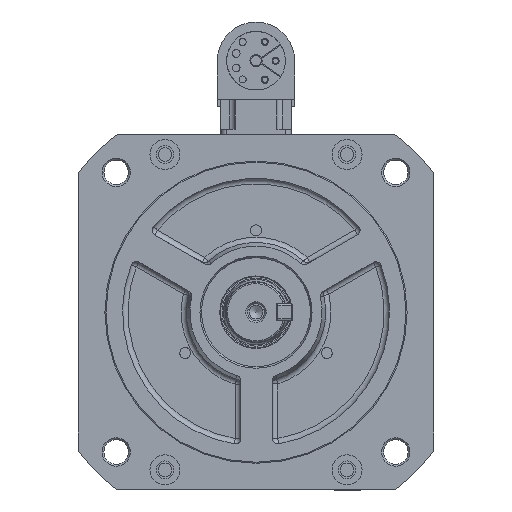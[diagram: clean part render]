
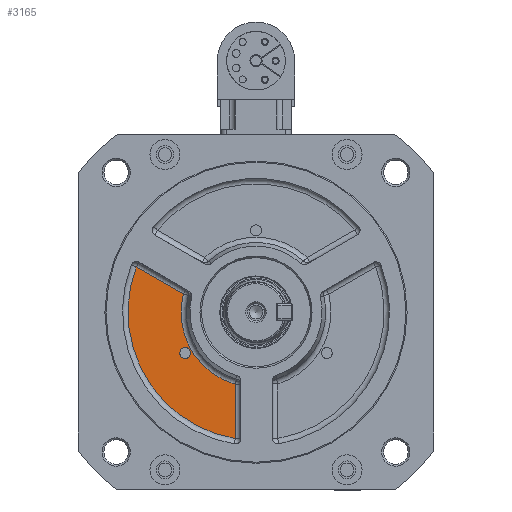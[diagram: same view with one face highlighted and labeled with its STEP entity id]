
A CAD part, left-side view. The second image highlights one B-rep face of the part: STEP entity #3165.
In plain terms, the highlighted planar face has unit normal (-1, 0, 0) as drawn and (0, -1, 0) by its records, which use the part's own axes.
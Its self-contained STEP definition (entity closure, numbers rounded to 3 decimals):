
#3165 = ADVANCED_FACE( '', ( #6979, #6980 ), #6981, .T. );
#6979 = FACE_OUTER_BOUND( '', #11583, .T. );
#6980 = FACE_BOUND( '', #11584, .T. );
#6981 = PLANE( '', #11585 );
#11583 = EDGE_LOOP( '', ( #20693, #20694, #20695, #20696 ) );
#11584 = EDGE_LOOP( '', ( #20697 ) );
#11585 = AXIS2_PLACEMENT_3D( '', #20698, #20699, #20700 );
#20693 = ORIENTED_EDGE( '', *, *, #29550, .T. );
#20694 = ORIENTED_EDGE( '', *, *, #29551, .T. );
#20695 = ORIENTED_EDGE( '', *, *, #29552, .T. );
#20696 = ORIENTED_EDGE( '', *, *, #29136, .T. );
#20697 = ORIENTED_EDGE( '', *, *, #29412, .T. );
#20698 = CARTESIAN_POINT( '', ( 0.069, -28., 0.04 ) );
#20699 = DIRECTION( '', ( 0., -1., 0. ) );
#20700 = DIRECTION( '', ( 0., 0., -1. ) );
#29136 = EDGE_CURVE( '', #35775, #35778, #35780, .T. );
#29412 = EDGE_CURVE( '', #36131, #36131, #36132, .T. );
#29550 = EDGE_CURVE( '', #35778, #36160, #36306, .T. );
#29551 = EDGE_CURVE( '', #36160, #35385, #36307, .T. );
#29552 = EDGE_CURVE( '', #35385, #35775, #36308, .T. );
#35385 = VERTEX_POINT( '', #43966 );
#35775 = VERTEX_POINT( '', #44502 );
#35778 = VERTEX_POINT( '', #44505 );
#35780 = CIRCLE( '', #44507, 27.5 );
#36131 = VERTEX_POINT( '', #44975 );
#36132 = CIRCLE( '', #44976, 2. );
#36160 = VERTEX_POINT( '', #45012 );
#36306 = LINE( '', #45208, #45209 );
#36307 = CIRCLE( '', #45210, 47. );
#36308 = LINE( '', #45211, #45212 );
#43966 = CARTESIAN_POINT( '', ( -7.596, -28., -46.331 ) );
#44502 = CARTESIAN_POINT( '', ( -7.596, -28., -26.43 ) );
#44505 = CARTESIAN_POINT( '', ( -26.687, -28., 6.637 ) );
#44507 = AXIS2_PLACEMENT_3D( '', #51772, #51773, #51774 );
#44975 = CARTESIAN_POINT( '', ( -24.249, -28., -14. ) );
#44976 = AXIS2_PLACEMENT_3D( '', #52125, #52126, #52127 );
#45012 = CARTESIAN_POINT( '', ( -43.922, -28., 16.587 ) );
#45208 = CARTESIAN_POINT( '', ( -3.763, -28., -6.599 ) );
#45209 = VECTOR( '', #52311, 1000. );
#45210 = AXIS2_PLACEMENT_3D( '', #52312, #52313, #52314 );
#45211 = CARTESIAN_POINT( '', ( -7.596, -28., 0.04 ) );
#45212 = VECTOR( '', #52315, 1000. );
#51772 = CARTESIAN_POINT( '', ( 0., -28., 0. ) );
#51773 = DIRECTION( '', ( 0., 1., 0. ) );
#51774 = DIRECTION( '', ( 0., 0., -1. ) );
#52125 = CARTESIAN_POINT( '', ( -25.981, -28., -15. ) );
#52126 = DIRECTION( '', ( 0., 1., 0. ) );
#52127 = DIRECTION( '', ( 0.866, 0., 0.5 ) );
#52311 = DIRECTION( '', ( -0.866, 0., 0.5 ) );
#52312 = CARTESIAN_POINT( '', ( 0.069, -28., 0.04 ) );
#52313 = DIRECTION( '', ( 0., -1., 0. ) );
#52314 = DIRECTION( '', ( 0., 0., -1. ) );
#52315 = DIRECTION( '', ( 0., 0., 1. ) );
